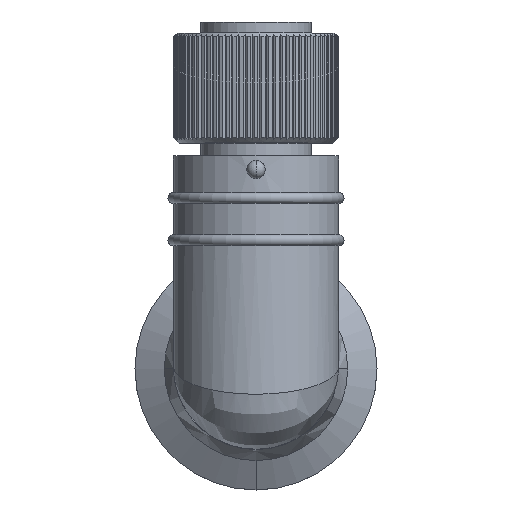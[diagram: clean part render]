
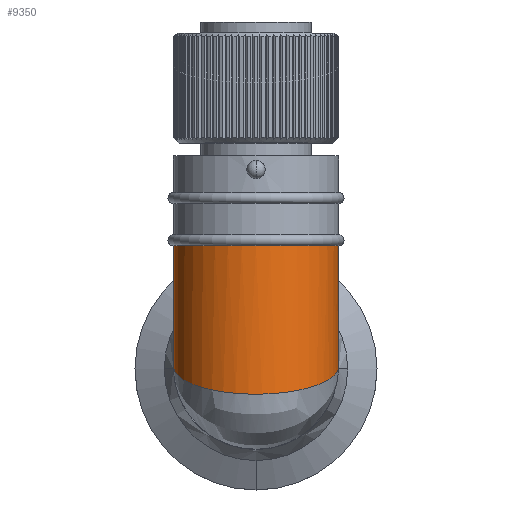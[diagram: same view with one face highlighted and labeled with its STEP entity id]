
A CAD part, top view. The second image highlights one B-rep face of the part: STEP entity #9350.
In plain terms, the highlighted cylindrical face has radius 4.5 mm (diameter 9 mm), a partial arc.
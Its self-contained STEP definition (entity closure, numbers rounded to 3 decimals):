
#267 = CARTESIAN_POINT ( 'NONE',  ( 0., 0., -4.5 ) ) ;
#486 = CARTESIAN_POINT ( 'NONE',  ( 14.5, 9., -4.5 ) ) ;
#1103 =( BOUNDED_CURVE ( )  B_SPLINE_CURVE ( 3, ( #3746, #7133, #486, #7190 ),
 .UNSPECIFIED., .F., .F. ) 
 B_SPLINE_CURVE_WITH_KNOTS ( ( 4, 4 ),
 ( 4.712, 7.854 ),
 .UNSPECIFIED. ) 
 CURVE ( )  GEOMETRIC_REPRESENTATION_ITEM ( )  RATIONAL_B_SPLINE_CURVE ( ( 1., 0.333, 0.333, 1. ) ) 
 REPRESENTATION_ITEM ( '' )  );
#1512 = VERTEX_POINT ( 'NONE', #13448 ) ;
#1668 = AXIS2_PLACEMENT_3D ( 'NONE', #12794, #11645, #2838 ) ;
#1708 = CARTESIAN_POINT ( 'NONE',  ( 11.5, 0., -4.5 ) ) ;
#1810 = VERTEX_POINT ( 'NONE', #5807 ) ;
#2027 = LINE ( 'NONE', #267, #8628 ) ;
#2303 = CIRCLE ( 'NONE', #1668, 4.5 ) ;
#2653 = ORIENTED_EDGE ( 'NONE', *, *, #4567, .F. ) ;
#2838 = DIRECTION ( 'NONE',  ( 0., 0., 1. ) ) ;
#3158 = DIRECTION ( 'NONE',  ( 0., 0., -1. ) ) ;
#3353 = EDGE_CURVE ( 'NONE', #1512, #12499, #6453, .T. ) ;
#3520 = CARTESIAN_POINT ( 'NONE',  ( 0., 0., 4.5 ) ) ;
#3669 = DIRECTION ( 'NONE',  ( 1., 0., 0. ) ) ;
#3746 = CARTESIAN_POINT ( 'NONE',  ( 11.5, 0., 4.5 ) ) ;
#3936 = ORIENTED_EDGE ( 'NONE', *, *, #3353, .T. ) ;
#4567 = EDGE_CURVE ( 'NONE', #1810, #7028, #2027, .T. ) ;
#5807 = CARTESIAN_POINT ( 'NONE',  ( 4.9, 0., -4.5 ) ) ;
#6243 = FACE_OUTER_BOUND ( 'NONE', #14132, .T. ) ;
#6453 = LINE ( 'NONE', #3520, #6965 ) ;
#6965 = VECTOR ( 'NONE', #13750, 1000. ) ;
#7028 = VERTEX_POINT ( 'NONE', #1708 ) ;
#7133 = CARTESIAN_POINT ( 'NONE',  ( 14.5, 9., 4.5 ) ) ;
#7190 = CARTESIAN_POINT ( 'NONE',  ( 11.5, 0., -4.5 ) ) ;
#7611 = DIRECTION ( 'NONE',  ( 1., 0., 0. ) ) ;
#7768 = EDGE_CURVE ( 'NONE', #12499, #7028, #1103, .T. ) ;
#8628 = VECTOR ( 'NONE', #3669, 1000. ) ;
#9302 = CARTESIAN_POINT ( 'NONE',  ( 11.5, 0., 4.5 ) ) ;
#9350 = ADVANCED_FACE ( 'NONE', ( #6243 ), #9553, .T. ) ;
#9553 = CYLINDRICAL_SURFACE ( 'NONE', #9939, 4.5 ) ;
#9939 = AXIS2_PLACEMENT_3D ( 'NONE', #14026, #7611, #3158 ) ;
#10610 = ORIENTED_EDGE ( 'NONE', *, *, #11526, .F. ) ;
#11526 = EDGE_CURVE ( 'NONE', #1512, #1810, #2303, .T. ) ;
#11645 = DIRECTION ( 'NONE',  ( -1., 0., 0. ) ) ;
#12196 = ORIENTED_EDGE ( 'NONE', *, *, #7768, .T. ) ;
#12499 = VERTEX_POINT ( 'NONE', #9302 ) ;
#12794 = CARTESIAN_POINT ( 'NONE',  ( 4.9, 0., 0. ) ) ;
#13448 = CARTESIAN_POINT ( 'NONE',  ( 4.9, 0., 4.5 ) ) ;
#13750 = DIRECTION ( 'NONE',  ( 1., 0., 0. ) ) ;
#14026 = CARTESIAN_POINT ( 'NONE',  ( 0., 0., 0. ) ) ;
#14132 = EDGE_LOOP ( 'NONE', ( #10610, #3936, #12196, #2653 ) ) ;
